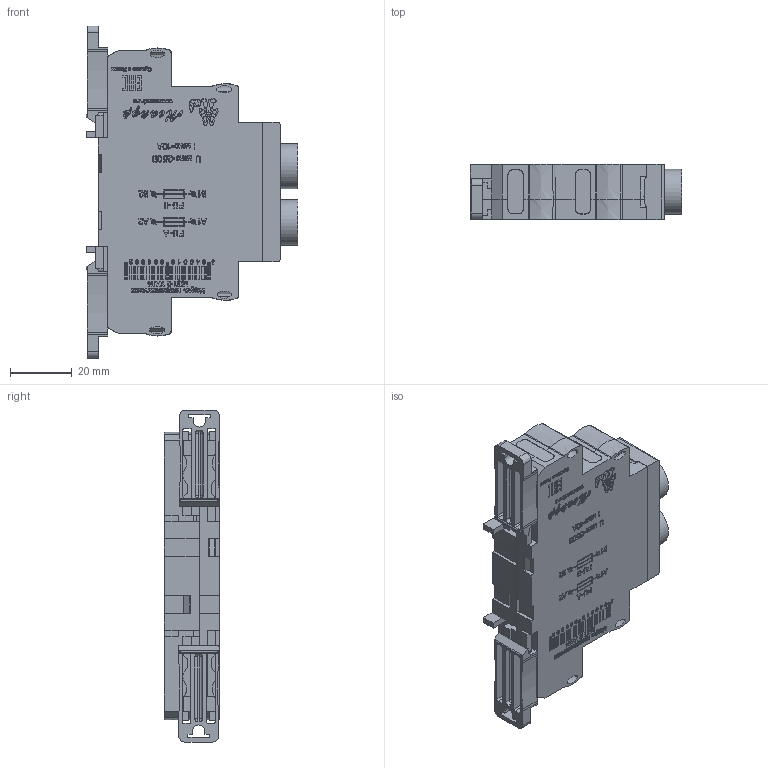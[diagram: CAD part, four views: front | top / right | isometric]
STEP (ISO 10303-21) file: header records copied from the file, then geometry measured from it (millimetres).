
FILE_DESCRIPTION(('STEP AP203'), '1');
FILE_NAME('ﾑ碚濱02_髜_ﾌﾄﾏ2', '', ('UNSPECIFIED'), ('UNSPECIFIED'), 'ASCON STEP Converter 1.6', 'ASCON Math Kernel', '');
FILE_SCHEMA(('CONFIG_CONTROL_DESIGN'));
Length unit declared in the file: millimetre
Products named in the file (13): Case13-18-23mm_2step_Half_v01a_Build20140909_1552_6.5mm; Case13-18-23mm_2step_Half_v01a_Build20140909_1552_11.25mm; Case13-18-23mm_2step_plug_v01_Build20140909_1552_18mm; Case13-18-23mm_2step_Lock_v01a_Build20140909_1552; Case13-18-23mm_2step_Face_v01_Build20140909_1552_18mm
Assembly tree (18 placements, depth 3):
  (unnamed)
    Case13-18-23mm_2step_Half_v01a_Build20140909_1552_6.5mm
    Case13-18-23mm_2step_Half_v01a_Build20140909_1552_11.25mm
    Case13-18-23mm_2step_plug_v01_Build20140909_1552_18mm  x4
    Case13-18-23mm_2step_Lock_v01a_Build20140909_1552  x2
    (unnamed)
      Case13-18-23mm_2step_Face_v01_Build20140909_1552_18mm
      (unnamed)  x2
      (unnamed)
    (unnamed)  x2
    (unnamed)
    (unnamed)
    (unnamed)
Bounding box: 68.45 x 17.76 x 107.2 mm (x, y, z)
Volume: 24366.5 mm3; surface area: 41268 mm2
Topology: 200 solids, 200 shells, 8363 faces, 23789 edges, 15828 vertices
Faces by surface type: plane 6552, extrusion 1509, cylinder 262, cone 24, sphere 8, bspline 4, torus 4
Full cylindrical faces by diameter (mm): 3.9 x4, 10.5 x2, 10.9 x2, 14.6 x4
Entity records: 328730 total; most frequent: CARTESIAN_POINT 60413, ORIENTED_EDGE 45646, DIRECTION 34812, EDGE_CURVE 22823, VECTOR 20912, LINE 19441, VERTEX_POINT 15202, EDGE_LOOP 8223
